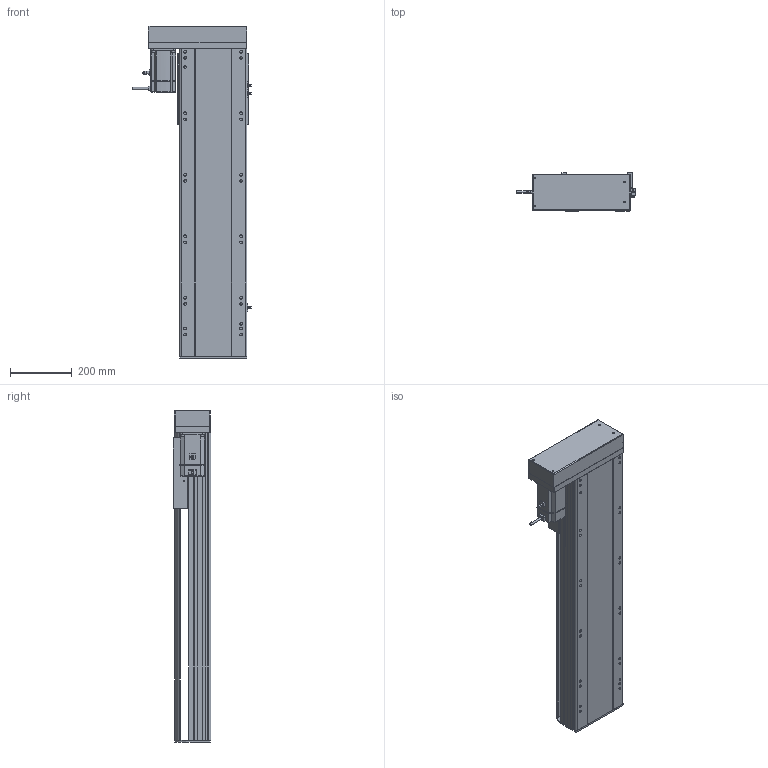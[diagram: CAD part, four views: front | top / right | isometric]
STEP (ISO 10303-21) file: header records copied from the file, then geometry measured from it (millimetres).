
FILE_DESCRIPTION (( 'STEP AP214' ), '1' );
FILE_NAME ('RTH22-XX-700-R-M75-C4.STEP', '2025-10-25T03:11:03', ( 'Microsoft' ), ( 'Microsoft' ), 'SwSTEP 2.0', 'SolidWorks 2018', '' );
FILE_SCHEMA (( 'AUTOMOTIVE_DESIGN' ));
Length unit declared in the file: millimetre
Products named in the file (10): N_RTH22-GY-013外置感应片^RTH22-XX-XX-R-M75-C4; N_RTH22-L-018裔赽^RTH22-XX-XX-R-M75-C4; N_RTH22-R-008-P75萇儂啣^RTH22-XX-XX-R-M75-C4; N_RTH22-L-004-SFS25賑釱^RTH22-XX-XX-R-M75-C4; N_750W萇儂^RTH22-XX-XX-R-M75-C4; N_RTH22-GY-001耜裔^RTH22-XX-XX-R-M75-C4; RTH22-XX-700-R-M75-C4; N_OMRON EE-SX672 传感器^RTH22-XX-XX-R-M75-C4; N_RTH22-L-007奻裔^RTH22-XX-XX-R-M75-C4; N_RTH22-L-011菁釱^RTH22-XX-XX-R-M75-C4
Assembly tree (11 placements, depth 2):
  RTH22-XX-700-R-M75-C4
    N_RTH22-L-011菁釱^RTH22-XX-XX-R-M75-C4
    N_RTH22-GY-001耜裔^RTH22-XX-XX-R-M75-C4
    N_750W萇儂^RTH22-XX-XX-R-M75-C4
    N_RTH22-R-008-P75萇儂啣^RTH22-XX-XX-R-M75-C4
    N_RTH22-L-007奻裔^RTH22-XX-XX-R-M75-C4
    N_OMRON EE-SX672 传感器^RTH22-XX-XX-R-M75-C4  x3
    N_RTH22-GY-013外置感应片^RTH22-XX-XX-R-M75-C4
    N_RTH22-L-004-SFS25賑釱^RTH22-XX-XX-R-M75-C4
    N_RTH22-L-018裔赽^RTH22-XX-XX-R-M75-C4
Bounding box: 384.7 x 122 x 1079.7 mm (x, y, z)
Volume: 15419135.9 mm3; surface area: 1768588 mm2
Topology: 11 solids, 11 shells, 1574 faces, 4297 edges, 2773 vertices
Faces by surface type: plane 791, cylinder 450, bspline 279, cone 54
Entity records: 39309 total; most frequent: CARTESIAN_POINT 12054, ORIENTED_EDGE 5578, DIRECTION 5235, EDGE_CURVE 2789, VERTEX_POINT 1809, AXIS2_PLACEMENT_3D 1750, VECTOR 1735, LINE 1735
